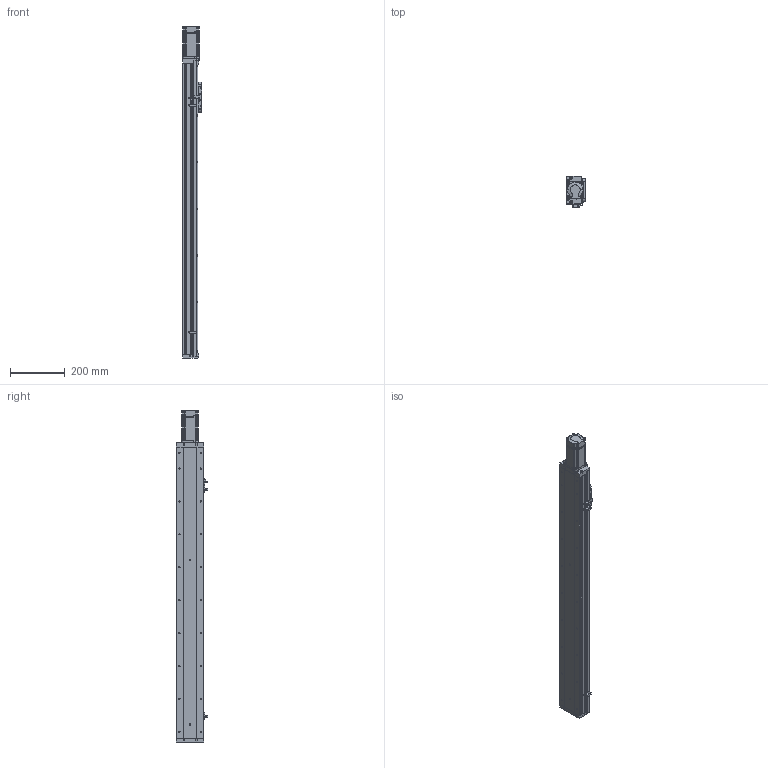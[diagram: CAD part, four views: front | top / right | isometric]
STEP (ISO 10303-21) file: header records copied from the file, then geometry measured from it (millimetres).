
FILE_DESCRIPTION (( 'STEP AP214' ), '1' );
FILE_NAME ('KSD100S-S850-MN-CR.STEP', '2019-09-02T09:37:20', ( '微软用户' ), ( '微软中国' ), 'SwSTEP 2.0', 'SolidWorks 2014', '' );
FILE_SCHEMA (( 'AUTOMOTIVE_DESIGN' ));
Length unit declared in the file: millimetre
Products named in the file (12): MHMD042G1CA_2_03; U倰嫖萇EEㄜSX672; 感应片100宽全封闭; 100宽马达安装板全封闭不带电机座; 100宽端板全封闭; 100宽滚珠螺姆安装板1防护罩; 100宽滚珠螺姆安装板1; 100宽盖板压板不带电机座; 100宽盖板850行程不带电机座; 100宽侧板850行程不带电机座; 100宽底板全封闭850行程不带电机座; KSD100S-S850-MN-CR
Assembly tree (15 placements, depth 2):
  KSD100S-S850-MN-CR
    100宽底板全封闭850行程不带电机座
    100宽侧板850行程不带电机座  x2
    100宽盖板850行程不带电机座
    100宽盖板压板不带电机座  x2
    100宽滚珠螺姆安装板1
    100宽滚珠螺姆安装板1防护罩
    100宽端板全封闭
    100宽马达安装板全封闭不带电机座
    感应片100宽全封闭
    U倰嫖萇EEㄜSX672  x3
    MHMD042G1CA_2_03
Bounding box: 70 x 113.7 x 1210.5 mm (x, y, z)
Volume: 2122699.7 mm3; surface area: 932359.5 mm2
Topology: 14 solids, 15 shells, 1612 faces, 4524 edges, 2870 vertices
Faces by surface type: cylinder 685, plane 660, cone 249, bspline 18
Entity records: 55176 total; most frequent: CARTESIAN_POINT 8691, DIRECTION 7549, ORIENTED_EDGE 7004, EDGE_CURVE 3574, AXIS2_PLACEMENT_3D 2700, VERTEX_POINT 2368, VECTOR 2149, LINE 2149
